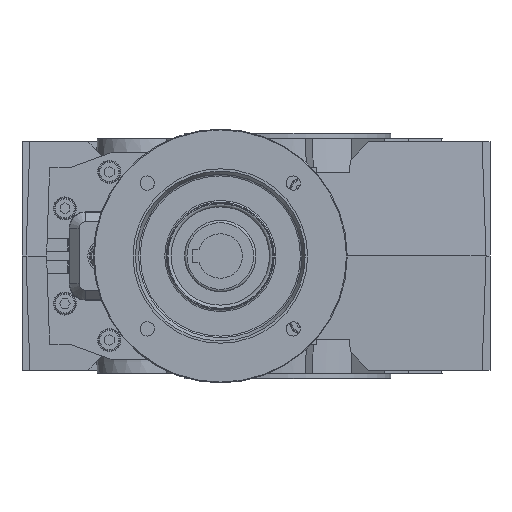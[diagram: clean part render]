
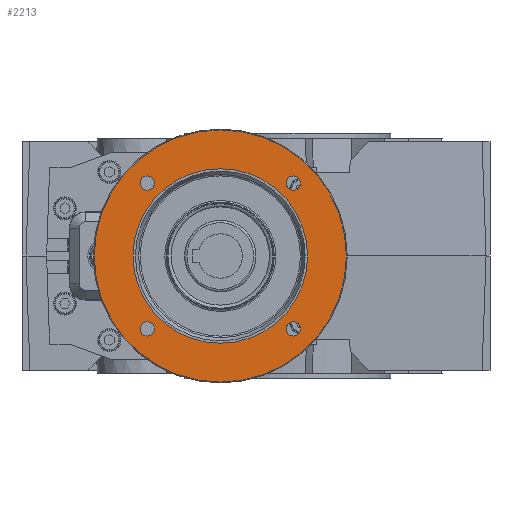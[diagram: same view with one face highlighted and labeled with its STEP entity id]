
A CAD part, left-side view. The second image highlights one B-rep face of the part: STEP entity #2213.
In plain terms, the highlighted planar face has unit normal (-1, 0, 0).
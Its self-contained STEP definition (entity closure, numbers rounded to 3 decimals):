
#2213 = ADVANCED_FACE( '', ( #5036, #5037, #5038, #5039, #5040, #5041 ), #5042, .F. );
#5036 = FACE_OUTER_BOUND( '', #9142, .T. );
#5037 = FACE_BOUND( '', #9143, .T. );
#5038 = FACE_BOUND( '', #9144, .T. );
#5039 = FACE_BOUND( '', #9145, .T. );
#5040 = FACE_BOUND( '', #9146, .T. );
#5041 = FACE_BOUND( '', #9147, .T. );
#5042 = PLANE( '', #9148 );
#9142 = EDGE_LOOP( '', ( #15905 ) );
#9143 = EDGE_LOOP( '', ( #15906 ) );
#9144 = EDGE_LOOP( '', ( #15907 ) );
#9145 = EDGE_LOOP( '', ( #15908 ) );
#9146 = EDGE_LOOP( '', ( #15909 ) );
#9147 = EDGE_LOOP( '', ( #15910 ) );
#9148 = AXIS2_PLACEMENT_3D( '', #15911, #15912, #15913 );
#15905 = ORIENTED_EDGE( '', *, *, #21237, .F. );
#15906 = ORIENTED_EDGE( '', *, *, #21238, .F. );
#15907 = ORIENTED_EDGE( '', *, *, #21239, .F. );
#15908 = ORIENTED_EDGE( '', *, *, #21240, .F. );
#15909 = ORIENTED_EDGE( '', *, *, #20604, .F. );
#15910 = ORIENTED_EDGE( '', *, *, #21241, .T. );
#15911 = CARTESIAN_POINT( '', ( -251.5, 122., 0. ) );
#15912 = DIRECTION( '', ( 1., 0., 0. ) );
#15913 = DIRECTION( '', ( 0., 1., 0. ) );
#20604 = EDGE_CURVE( '', #24666, #24666, #24667, .F. );
#21237 = EDGE_CURVE( '', #25544, #25544, #25545, .T. );
#21238 = EDGE_CURVE( '', #25546, #25546, #25547, .F. );
#21239 = EDGE_CURVE( '', #25548, #25548, #25549, .F. );
#21240 = EDGE_CURVE( '', #25550, #25550, #25551, .F. );
#21241 = EDGE_CURVE( '', #25552, #25552, #25553, .T. );
#24666 = VERTEX_POINT( '', #30860 );
#24667 = CIRCLE( '', #30861, 4.5 );
#25544 = VERTEX_POINT( '', #32260 );
#25545 = CIRCLE( '', #32261, 79.5 );
#25546 = VERTEX_POINT( '', #32262 );
#25547 = CIRCLE( '', #32263, 4.5 );
#25548 = VERTEX_POINT( '', #32264 );
#25549 = CIRCLE( '', #32265, 4.5 );
#25550 = VERTEX_POINT( '', #32266 );
#25551 = CIRCLE( '', #32267, 4.5 );
#25552 = VERTEX_POINT( '', #32268 );
#25553 = CIRCLE( '', #32269, 55. );
#30860 = CARTESIAN_POINT( '', ( -251.5, 92.962, -45.962 ) );
#30861 = AXIS2_PLACEMENT_3D( '', #35914, #35915, #35916 );
#32260 = CARTESIAN_POINT( '', ( -251.5, 122., 0. ) );
#32261 = AXIS2_PLACEMENT_3D( '', #36540, #36541, #36542 );
#32262 = CARTESIAN_POINT( '', ( -251.5, 1.038, -45.962 ) );
#32263 = AXIS2_PLACEMENT_3D( '', #36543, #36544, #36545 );
#32264 = CARTESIAN_POINT( '', ( -251.5, 1.038, 45.962 ) );
#32265 = AXIS2_PLACEMENT_3D( '', #36546, #36547, #36548 );
#32266 = CARTESIAN_POINT( '', ( -251.5, 92.962, 45.962 ) );
#32267 = AXIS2_PLACEMENT_3D( '', #36549, #36550, #36551 );
#32268 = CARTESIAN_POINT( '', ( -251.5, 97.5, 0. ) );
#32269 = AXIS2_PLACEMENT_3D( '', #36552, #36553, #36554 );
#35914 = CARTESIAN_POINT( '', ( -251.5, 88.462, -45.962 ) );
#35915 = DIRECTION( '', ( 1., 0., 0. ) );
#35916 = DIRECTION( '', ( 0., 1., 0. ) );
#36540 = CARTESIAN_POINT( '', ( -251.5, 42.5, 0. ) );
#36541 = DIRECTION( '', ( 1., 0., 0. ) );
#36542 = DIRECTION( '', ( 0., 1., 0. ) );
#36543 = CARTESIAN_POINT( '', ( -251.5, -3.462, -45.962 ) );
#36544 = DIRECTION( '', ( 1., 0., 0. ) );
#36545 = DIRECTION( '', ( 0., 1., 0. ) );
#36546 = CARTESIAN_POINT( '', ( -251.5, -3.462, 45.962 ) );
#36547 = DIRECTION( '', ( 1., 0., 0. ) );
#36548 = DIRECTION( '', ( 0., 1., 0. ) );
#36549 = CARTESIAN_POINT( '', ( -251.5, 88.462, 45.962 ) );
#36550 = DIRECTION( '', ( 1., 0., 0. ) );
#36551 = DIRECTION( '', ( 0., 1., 0. ) );
#36552 = CARTESIAN_POINT( '', ( -251.5, 42.5, 0. ) );
#36553 = DIRECTION( '', ( 1., 0., 0. ) );
#36554 = DIRECTION( '', ( 0., 1., 0. ) );
